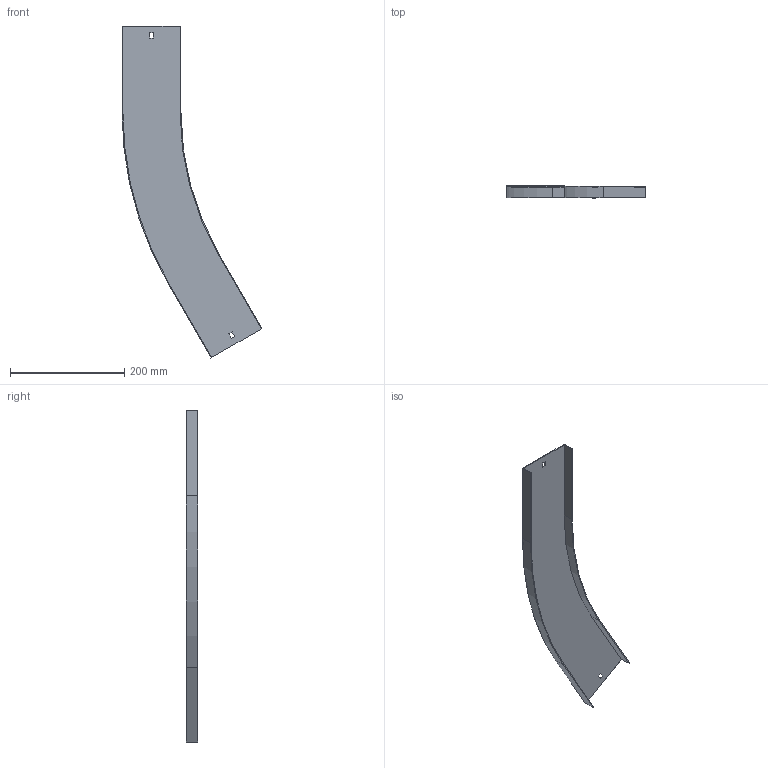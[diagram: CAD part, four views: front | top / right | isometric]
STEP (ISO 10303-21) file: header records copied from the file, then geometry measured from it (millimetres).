
FILE_DESCRIPTION (( 'STEP AP214' ), '1' );
FILE_NAME ('12N5R100.step', '2025-02-21T10:48:00', ( '' ), ( '' ), 'SwSTEP 2.0', 'SolidWorks 2023', '' );
FILE_SCHEMA (( 'AUTOMOTIVE_DESIGN' ));
Length unit declared in the file: millimetre
Products named in the file (1): 12N5R100
Bounding box: 244.79 x 20 x 580.65 mm (x, y, z)
Volume: 123300.2 mm3; surface area: 166677.1 mm2
Topology: 1 solids, 1 shells, 26 faces, 72 edges, 48 vertices
Faces by surface type: plane 22, cylinder 4
Entity records: 855 total; most frequent: CARTESIAN_POINT 147, ORIENTED_EDGE 144, DIRECTION 134, EDGE_CURVE 72, LINE 64, VECTOR 64, VERTEX_POINT 48, AXIS2_PLACEMENT_3D 35
